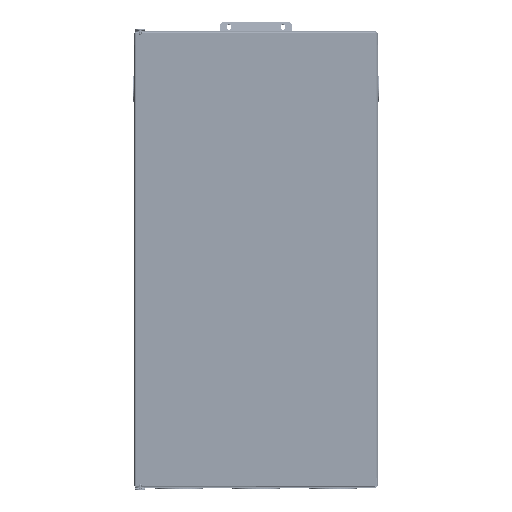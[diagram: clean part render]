
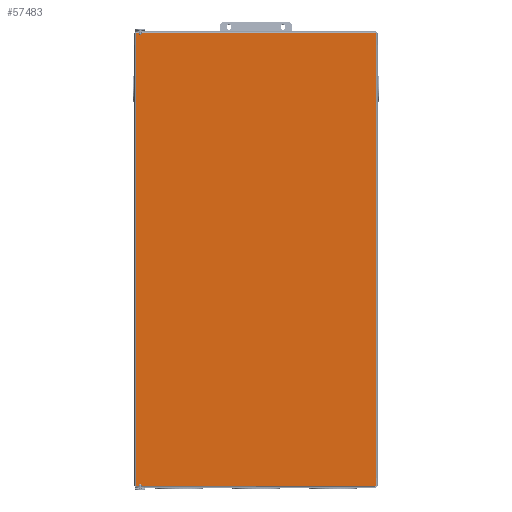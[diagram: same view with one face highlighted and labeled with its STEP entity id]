
A CAD part, top view. The second image highlights one B-rep face of the part: STEP entity #57483.
In plain terms, the highlighted planar face has unit normal (0, 0, 1).
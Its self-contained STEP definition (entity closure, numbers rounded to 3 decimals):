
#852 = CARTESIAN_POINT ( 'NONE',  ( 200., 378., 1.2 ) ) ;
#2660 = CARTESIAN_POINT ( 'NONE',  ( 200., 378., 1.2 ) ) ;
#7574 = CARTESIAN_POINT ( 'NONE',  ( 200., -378., 1.2 ) ) ;
#11605 = CARTESIAN_POINT ( 'NONE',  ( -200., -378., 1.2 ) ) ;
#12450 = AXIS2_PLACEMENT_3D ( 'NONE', #72372, #29064, #86847 ) ;
#14894 = VERTEX_POINT ( 'NONE', #76844 ) ;
#15950 = EDGE_CURVE ( 'NONE', #177468, #14894, #178278, .T. ) ;
#23124 = CARTESIAN_POINT ( 'NONE',  ( -200., 378., 1.2 ) ) ;
#27665 = LINE ( 'NONE', #2660, #180544 ) ;
#28929 = LINE ( 'NONE', #11605, #67144 ) ;
#29064 = DIRECTION ( 'NONE',  ( 0., 0., 1. ) ) ;
#32434 = DIRECTION ( 'NONE',  ( 0., -1., 0. ) ) ;
#50076 = EDGE_CURVE ( 'NONE', #135220, #91737, #27665, .T. ) ;
#52937 = LINE ( 'NONE', #114578, #124889 ) ;
#57483 = ADVANCED_FACE ( 'NONE', ( #93979 ), #158412, .T. ) ;
#67144 = VECTOR ( 'NONE', #97692, 1000. ) ;
#72372 = CARTESIAN_POINT ( 'NONE',  ( -200., -378., 1.2 ) ) ;
#76844 = CARTESIAN_POINT ( 'NONE',  ( -200., -378., 1.2 ) ) ;
#85555 = EDGE_CURVE ( 'NONE', #14894, #135220, #28929, .T. ) ;
#86847 = DIRECTION ( 'NONE',  ( 1., 0., 0. ) ) ;
#87160 = ORIENTED_EDGE ( 'NONE', *, *, #132699, .T. ) ;
#91737 = VERTEX_POINT ( 'NONE', #852 ) ;
#93979 = FACE_OUTER_BOUND ( 'NONE', #158944, .T. ) ;
#97692 = DIRECTION ( 'NONE',  ( 1., 0., 0. ) ) ;
#113949 = DIRECTION ( 'NONE',  ( -1., 0., 0. ) ) ;
#114578 = CARTESIAN_POINT ( 'NONE',  ( -200., 378., 1.2 ) ) ;
#116512 = ORIENTED_EDGE ( 'NONE', *, *, #85555, .T. ) ;
#124889 = VECTOR ( 'NONE', #113949, 1000. ) ;
#132699 = EDGE_CURVE ( 'NONE', #91737, #177468, #52937, .T. ) ;
#135220 = VERTEX_POINT ( 'NONE', #7574 ) ;
#148080 = ORIENTED_EDGE ( 'NONE', *, *, #15950, .T. ) ;
#158412 = PLANE ( 'NONE',  #12450 ) ;
#158944 = EDGE_LOOP ( 'NONE', ( #148080, #116512, #173602, #87160 ) ) ;
#173602 = ORIENTED_EDGE ( 'NONE', *, *, #50076, .T. ) ;
#174839 = DIRECTION ( 'NONE',  ( 0., 1., 0. ) ) ;
#175692 = CARTESIAN_POINT ( 'NONE',  ( -200., 378., 1.2 ) ) ;
#176331 = VECTOR ( 'NONE', #32434, 1000. ) ;
#177468 = VERTEX_POINT ( 'NONE', #23124 ) ;
#178278 = LINE ( 'NONE', #175692, #176331 ) ;
#180544 = VECTOR ( 'NONE', #174839, 1000. ) ;
